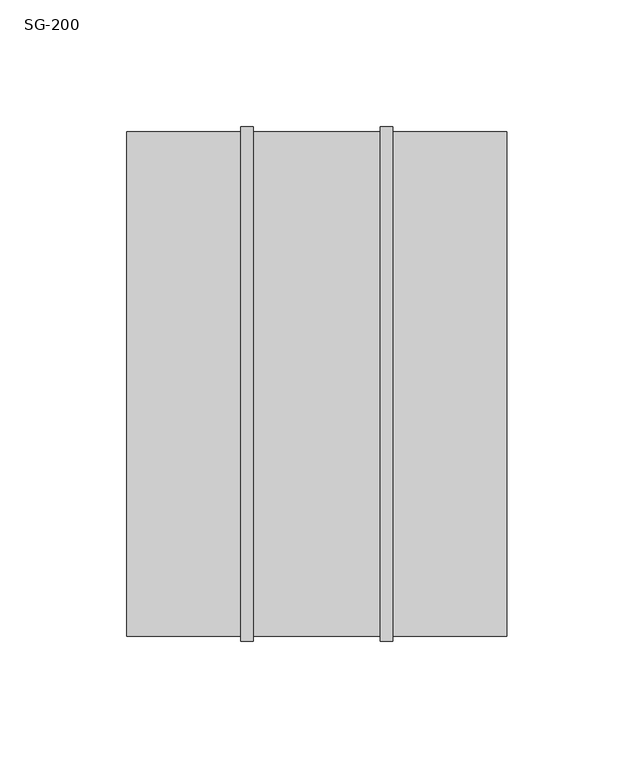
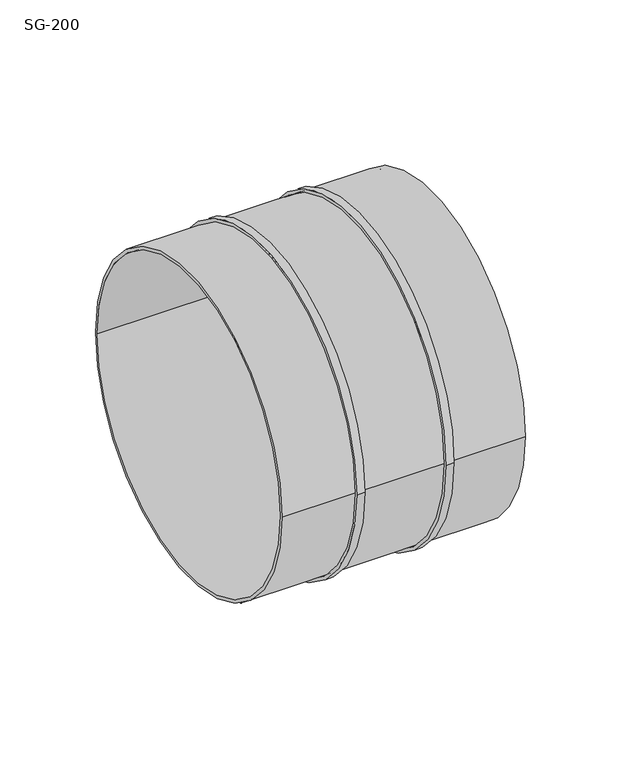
"""IFC4 building model written with IfcOpenShell, lengths in millimetres: damper geometry, СВ_ГибкаяВставка_КанальнаяКруглая_DN100-315_SG : SG-200."""

from ifc_helpers import new_model, si_unit, point, frame, origin, origin_2d, place, context, project, spatial, circle_curve, trimmed, segment, composite_curve, outline, extrude, source, transform, mapped, element, save


def sg_200_e4f14594(model_context):
    return source(origin(), model_context, "Body", "SweptSolid", [
        extrude(outline(composite_curve([segment(trimmed(circle_curve(origin_2d(), 101.5), [point((-101.5, 0.0))], [point((101.5, 0.0))], False, "CARTESIAN"), True, "CONTINUOUS"), segment(trimmed(circle_curve(origin_2d(), 101.5), [point((101.5, 0.0))], [point((-101.5, 0.0))], False, "CARTESIAN"), True, "CONTINUOUS")], self_intersect=False), holes=[composite_curve([segment(trimmed(circle_curve(origin_2d(), 99.5), [point((-99.5, 0.0))], [point((99.5, 0.0))], True, "CARTESIAN"), True, "CONTINUOUS"), segment(trimmed(circle_curve(origin_2d(), 99.5), [point((99.5, 0.0))], [point((-99.5, 0.0))], True, "CARTESIAN"), True, "CONTINUOUS")], self_intersect=False)]), frame((25.0, 0.0, 0.0), z_axis=(1.0, 0.0, 0.0), x_axis=(0.0, 1.0, 0.0)), (0.0, 0.0, 1.0), 5.0),
        extrude(outline(composite_curve([segment(trimmed(circle_curve(origin_2d(), 101.5), [point((-101.5, 0.0))], [point((101.5, 0.0))], False, "CARTESIAN"), True, "CONTINUOUS"), segment(trimmed(circle_curve(origin_2d(), 101.5), [point((101.5, 0.0))], [point((-101.5, 0.0))], False, "CARTESIAN"), True, "CONTINUOUS")], self_intersect=False), holes=[composite_curve([segment(trimmed(circle_curve(origin_2d(), 99.5), [point((-99.5, 0.0))], [point((99.5, 0.0))], True, "CARTESIAN"), True, "CONTINUOUS"), segment(trimmed(circle_curve(origin_2d(), 99.5), [point((99.5, 0.0))], [point((-99.5, 0.0))], True, "CARTESIAN"), True, "CONTINUOUS")], self_intersect=False)]), frame((-30.0, 0.0, 0.0), z_axis=(1.0, 0.0, 0.0), x_axis=(0.0, 1.0, 0.0)), (0.0, 0.0, 1.0), 5.0),
        extrude(outline(composite_curve([segment(trimmed(circle_curve(origin_2d(), 99.5), [point((-99.5, 0.0))], [point((99.5, 0.0))], False, "CARTESIAN"), True, "CONTINUOUS"), segment(trimmed(circle_curve(origin_2d(), 99.5), [point((99.5, 0.0))], [point((-99.5, 0.0))], False, "CARTESIAN"), True, "CONTINUOUS")], self_intersect=False), holes=[composite_curve([segment(trimmed(circle_curve(origin_2d(), 97.5), [point((-97.5, 0.0))], [point((97.5, 0.0))], True, "CARTESIAN"), True, "CONTINUOUS"), segment(trimmed(circle_curve(origin_2d(), 97.5), [point((97.5, 0.0))], [point((-97.5, 0.0))], True, "CARTESIAN"), True, "CONTINUOUS")], self_intersect=False)]), frame((-75.0, 0.0, 0.0), z_axis=(1.0, 0.0, 0.0), x_axis=(0.0, 1.0, 0.0)), (0.0, 0.0, 1.0), 150.0),
    ])


if __name__ == "__main__":
    model = new_model("IFC4")
    model_context = context("Model", 3, world=origin())
    ifc_project = project(units=[si_unit("LENGTHUNIT", "METRE", prefix="MILLI")], contexts=[model_context])
    site = spatial("IfcSite", under=ifc_project)
    building = spatial("IfcBuilding", under=site)
    placement = place(None, origin())
    sg_200_shape = sg_200_e4f14594(model_context)
    element("IfcDamper", 1, ObjectType="СВ_ГибкаяВставка_КанальнаяКруглая_DN100-315_SG : SG-200", at=placement, inside=building, context=model_context, shape_type="MappedRepresentation", body=[
        mapped(sg_200_shape, transform((0.0, 0.0, 0.0), x_axis=(1.0, 0.0, 0.0), y_axis=(0.0, 1.0, 0.0), z_axis=(0.0, 0.0, 1.0))),
    ])
    save(model, "model.ifc")
